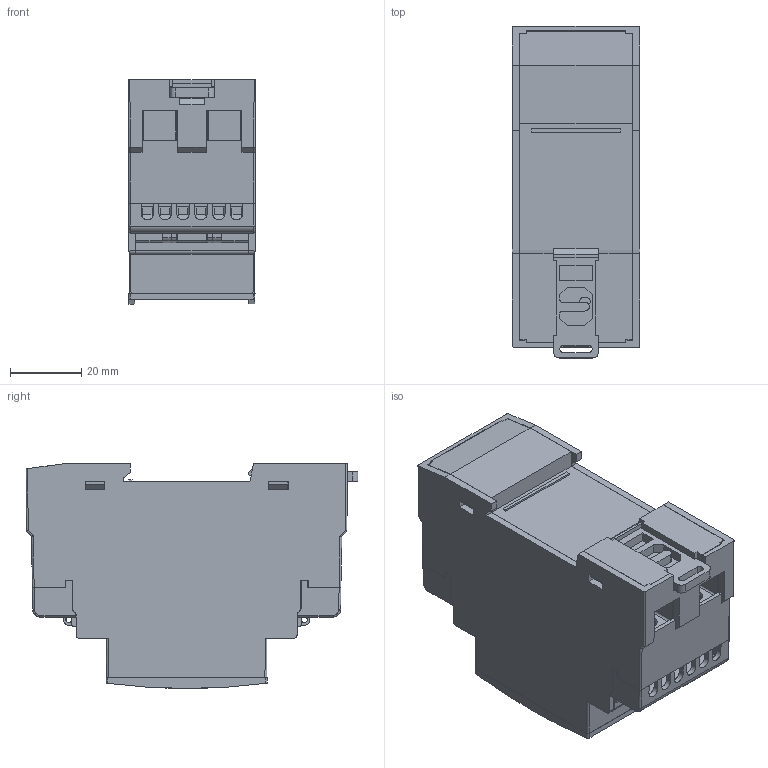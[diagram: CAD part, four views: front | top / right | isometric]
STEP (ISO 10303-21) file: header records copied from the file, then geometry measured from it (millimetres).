
FILE_DESCRIPTION((''),'2;1');
FILE_NAME('EM112_ASM','2016-03-17T',('Administrator'),(''),'PRO/ENGINEER BY PARAMETRIC TECHNOLOGY CORPORATION, 2011190','PRO/ENGINEER BY PARAMETRIC TECHNOLOGY CORPORATION, 2011190','');
FILE_SCHEMA(('AUTOMOTIVE_DESIGN { 1 0 10303 214 1 1 1 1 }'));
Length unit declared in the file: millimetre
Products named in the file (10): MG; DK; CG; TMSC; GG; K210-SL; JXDZ; JXLD; MSP7-13; EM112_ASM
Assembly tree (17 placements, depth 2):
  EM112_ASM
    MG
    DK
    CG  x2
    TMSC
    GG
    K210-SL
    JXDZ  x4
    JXLD  x2
    MSP7-13  x4
Bounding box: 35.8 x 92.99 x 63.02 mm (x, y, z)
Volume: 52204.9 mm3; surface area: 64680 mm2
Topology: 17 solids, 17 shells, 1699 faces, 4810 edges, 3176 vertices
Faces by surface type: plane 1363, cylinder 273, torus 26, bspline 24, cone 10, extrusion 3
Entity records: 55934 total; most frequent: CARTESIAN_POINT 9185, ORIENTED_EDGE 7482, DIRECTION 6492, PRESENTATION_STYLE_ASSIGNMENT 3797, STYLED_ITEM 3757, CURVE_STYLE 3741, EDGE_CURVE 3741, VECTOR 3288
